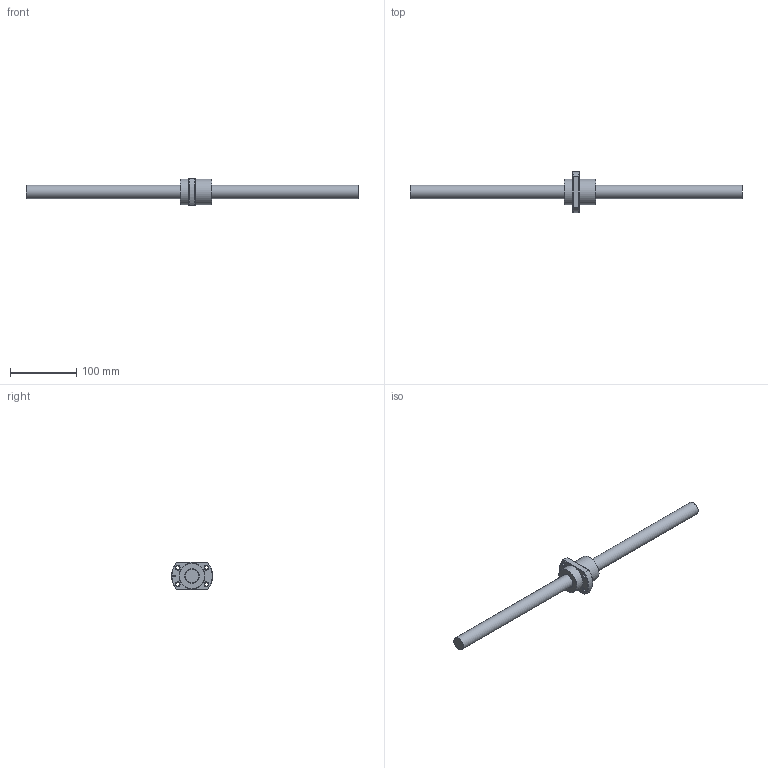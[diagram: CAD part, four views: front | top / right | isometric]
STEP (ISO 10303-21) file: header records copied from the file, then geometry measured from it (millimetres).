
FILE_DESCRIPTION (( 'STEP AP203' ), '1' );
FILE_NAME ('SFYA02040-1.6.step', '2024-05-22T07:51:46', ( '' ), ( '' ), 'SwSTEP 2.0', 'SolidWorks 2022', '' );
FILE_SCHEMA (( 'CONFIG_CONTROL_DESIGN' ));
Length unit declared in the file: millimetre
Products named in the file (1): SFYA02040-1.6
Bounding box: 500 x 61.9 x 41 mm (x, y, z)
Volume: 206099 mm3; surface area: 46316 mm2
Topology: 2 solids, 2 shells, 51 faces, 124 edges, 79 vertices
Faces by surface type: cylinder 18, plane 13, cone 9, torus 6, bspline 5
Full cylindrical faces by diameter (mm): 2.8 x1, 5 x6, 5.5 x4, 20 x1, 22.1 x1, 39 x2
Entity records: 3009 total; most frequent: CARTESIAN_POINT 2056, DIRECTION 170, ORIENTED_EDGE 156, EDGE_LOOP 80, EDGE_CURVE 78, AXIS2_PLACEMENT_3D 77, VERTEX_POINT 62, FACE_OUTER_BOUND 57
